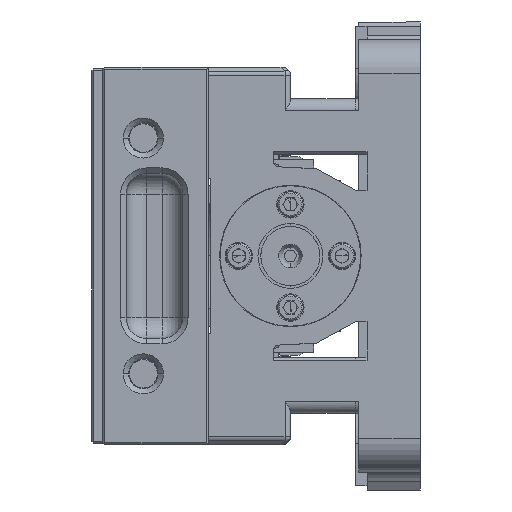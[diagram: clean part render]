
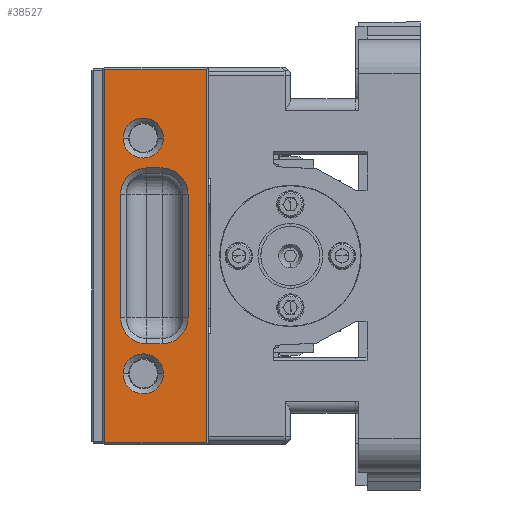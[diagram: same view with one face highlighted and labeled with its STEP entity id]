
A CAD part, left-side view. The second image highlights one B-rep face of the part: STEP entity #38527.
In plain terms, the highlighted planar face has unit normal (-1, 0, 0).
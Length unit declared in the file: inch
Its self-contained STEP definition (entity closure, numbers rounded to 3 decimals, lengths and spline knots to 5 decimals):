
#28 = EDGE_CURVE ( 'NONE', #48520, #14351, #49622, .T. ) ;
#295 = DIRECTION ( 'NONE',  ( 0., 1., 0. ) ) ;
#437 = ORIENTED_EDGE ( 'NONE', *, *, #4782, .T. ) ;
#513 = CARTESIAN_POINT ( 'NONE',  ( -4.311, 2.26833, -1.98 ) ) ;
#1097 = ORIENTED_EDGE ( 'NONE', *, *, #39977, .F. ) ;
#2566 = CARTESIAN_POINT ( 'NONE',  ( -4.311, 2.48083, -0.875 ) ) ;
#2964 = CIRCLE ( 'NONE', #50041, 0.2125 ) ;
#3204 = CARTESIAN_POINT ( 'NONE',  ( -4.311, 2.95533, 1.25 ) ) ;
#3383 = VERTEX_POINT ( 'NONE', #13771 ) ;
#3492 = LINE ( 'NONE', #35533, #26046 ) ;
#3831 = VERTEX_POINT ( 'NONE', #39617 ) ;
#4096 = VERTEX_POINT ( 'NONE', #20613 ) ;
#4734 = DIRECTION ( 'NONE',  ( 0., -1., 0. ) ) ;
#4782 = EDGE_CURVE ( 'NONE', #21865, #7699, #49904, .T. ) ;
#5322 = DIRECTION ( 'NONE',  ( -1., 0., 0. ) ) ;
#5771 = CARTESIAN_POINT ( 'NONE',  ( -4.311, 2.91958, -0.65625 ) ) ;
#5975 = ORIENTED_EDGE ( 'NONE', *, *, #28, .F. ) ;
#6728 = DIRECTION ( 'NONE',  ( 0., 1., 0. ) ) ;
#7306 = ORIENTED_EDGE ( 'NONE', *, *, #24887, .F. ) ;
#7683 = DIRECTION ( 'NONE',  ( 0., -1., 0. ) ) ;
#7699 = VERTEX_POINT ( 'NONE', #50136 ) ;
#7828 = EDGE_LOOP ( 'NONE', ( #38958, #5975, #31485, #1097, #34947, #15533, #7306, #42498 ) ) ;
#7983 = AXIS2_PLACEMENT_3D ( 'NONE', #5771, #52350, #39988 ) ;
#8034 = CARTESIAN_POINT ( 'NONE',  ( -4.311, 3.16783, -1.25 ) ) ;
#8052 = CIRCLE ( 'NONE', #52407, 0.27625 ) ;
#9721 = DIRECTION ( 'NONE',  ( -1., 0., 0. ) ) ;
#10131 = ORIENTED_EDGE ( 'NONE', *, *, #41833, .T. ) ;
#10397 = CIRCLE ( 'NONE', #52155, 0.2125 ) ;
#10661 = FACE_BOUND ( 'NONE', #7828, .T. ) ;
#12520 = CARTESIAN_POINT ( 'NONE',  ( -4.311, 2.95533, 1.25 ) ) ;
#12773 = CIRCLE ( 'NONE', #28472, 0.27625 ) ;
#13762 = LINE ( 'NONE', #20888, #15747 ) ;
#13771 = CARTESIAN_POINT ( 'NONE',  ( -4.311, 2.48083, 0.65625 ) ) ;
#13808 = ORIENTED_EDGE ( 'NONE', *, *, #20687, .F. ) ;
#14351 = VERTEX_POINT ( 'NONE', #18343 ) ;
#14857 = LINE ( 'NONE', #45247, #24794 ) ;
#15280 = FACE_BOUND ( 'NONE', #53118, .T. ) ;
#15436 = CARTESIAN_POINT ( 'NONE',  ( -4.311, 3.19583, 0.65625 ) ) ;
#15533 = ORIENTED_EDGE ( 'NONE', *, *, #27282, .F. ) ;
#15549 = DIRECTION ( 'NONE',  ( 0., 1., 0. ) ) ;
#15650 = EDGE_CURVE ( 'NONE', #3383, #34357, #12773, .T. ) ;
#15747 = VECTOR ( 'NONE', #37722, 39.37008 ) ;
#16382 = CARTESIAN_POINT ( 'NONE',  ( -4.311, 3.36333, -1.98 ) ) ;
#16486 = VECTOR ( 'NONE', #4734, 39.37008 ) ;
#16650 = CARTESIAN_POINT ( 'NONE',  ( -4.311, 2.91958, -0.9325 ) ) ;
#16859 = CARTESIAN_POINT ( 'NONE',  ( -4.311, 2.75708, 0.65625 ) ) ;
#18343 = CARTESIAN_POINT ( 'NONE',  ( -4.311, 3.19583, -0.65625 ) ) ;
#19222 = AXIS2_PLACEMENT_3D ( 'NONE', #12520, #29373, #46921 ) ;
#19539 = VERTEX_POINT ( 'NONE', #45627 ) ;
#19666 = VERTEX_POINT ( 'NONE', #42288 ) ;
#20413 = CIRCLE ( 'NONE', #23641, 0.2125 ) ;
#20613 = CARTESIAN_POINT ( 'NONE',  ( -4.311, 3.16783, 1.25 ) ) ;
#20687 = EDGE_CURVE ( 'NONE', #30663, #43681, #2964, .T. ) ;
#20888 = CARTESIAN_POINT ( 'NONE',  ( -4.311, 2.53833, 0.9325 ) ) ;
#21293 = DIRECTION ( 'NONE',  ( 0., 1., 0. ) ) ;
#21865 = VERTEX_POINT ( 'NONE', #29422 ) ;
#22172 = DIRECTION ( 'NONE',  ( 0., 0., 1. ) ) ;
#22918 = EDGE_LOOP ( 'NONE', ( #10131, #39925, #437, #54622 ) ) ;
#23053 = AXIS2_PLACEMENT_3D ( 'NONE', #26261, #5322, #48039 ) ;
#23438 = DIRECTION ( 'NONE',  ( -1., 0., 0. ) ) ;
#23641 = AXIS2_PLACEMENT_3D ( 'NONE', #3204, #49268, #40599 ) ;
#24794 = VECTOR ( 'NONE', #7683, 39.37008 ) ;
#24841 = AXIS2_PLACEMENT_3D ( 'NONE', #48203, #9721, #26587 ) ;
#24887 = EDGE_CURVE ( 'NONE', #19666, #31032, #44085, .T. ) ;
#25203 = DIRECTION ( 'NONE',  ( -1., 0., 0. ) ) ;
#25632 = CIRCLE ( 'NONE', #7983, 0.27625 ) ;
#26046 = VECTOR ( 'NONE', #44200, 39.37008 ) ;
#26261 = CARTESIAN_POINT ( 'NONE',  ( -4.311, 3.38333, 2.06 ) ) ;
#26527 = FACE_BOUND ( 'NONE', #35109, .T. ) ;
#26579 = CARTESIAN_POINT ( 'NONE',  ( -4.311, 2.95533, -1.25 ) ) ;
#26587 = DIRECTION ( 'NONE',  ( 0., 1., 0. ) ) ;
#27282 = EDGE_CURVE ( 'NONE', #31032, #3383, #51740, .T. ) ;
#27833 = FACE_OUTER_BOUND ( 'NONE', #22918, .T. ) ;
#27980 = EDGE_CURVE ( 'NONE', #34394, #4096, #20413, .T. ) ;
#28472 = AXIS2_PLACEMENT_3D ( 'NONE', #16859, #25203, #21293 ) ;
#28866 = VECTOR ( 'NONE', #22172, 39.37008 ) ;
#29202 = CARTESIAN_POINT ( 'NONE',  ( -4.311, 2.74283, -1.25 ) ) ;
#29373 = DIRECTION ( 'NONE',  ( -1., 0., 0. ) ) ;
#29422 = CARTESIAN_POINT ( 'NONE',  ( -4.311, 2.28833, 1.98 ) ) ;
#30663 = VERTEX_POINT ( 'NONE', #8034 ) ;
#30688 = PLANE ( 'NONE',  #23053 ) ;
#31032 = VERTEX_POINT ( 'NONE', #36647 ) ;
#31485 = ORIENTED_EDGE ( 'NONE', *, *, #38112, .F. ) ;
#31650 = EDGE_CURVE ( 'NONE', #39952, #19666, #14857, .T. ) ;
#31725 = CARTESIAN_POINT ( 'NONE',  ( -4.311, 2.91958, 0.65625 ) ) ;
#34357 = VERTEX_POINT ( 'NONE', #34840 ) ;
#34394 = VERTEX_POINT ( 'NONE', #39068 ) ;
#34840 = CARTESIAN_POINT ( 'NONE',  ( -4.311, 2.75708, 0.9325 ) ) ;
#34912 = ORIENTED_EDGE ( 'NONE', *, *, #27980, .F. ) ;
#34947 = ORIENTED_EDGE ( 'NONE', *, *, #15650, .F. ) ;
#35011 = EDGE_CURVE ( 'NONE', #43681, #30663, #10397, .T. ) ;
#35109 = EDGE_LOOP ( 'NONE', ( #13808, #44199 ) ) ;
#35533 = CARTESIAN_POINT ( 'NONE',  ( -4.311, 3.36333, 2.06 ) ) ;
#36616 = CARTESIAN_POINT ( 'NONE',  ( -4.311, 3.38333, 1.98 ) ) ;
#36647 = CARTESIAN_POINT ( 'NONE',  ( -4.311, 2.48083, -0.65625 ) ) ;
#36825 = EDGE_CURVE ( 'NONE', #14351, #39952, #25632, .T. ) ;
#37262 = EDGE_CURVE ( 'NONE', #3831, #21865, #50613, .T. ) ;
#37679 = VECTOR ( 'NONE', #40636, 39.37008 ) ;
#37722 = DIRECTION ( 'NONE',  ( 0., 1., 0. ) ) ;
#38112 = EDGE_CURVE ( 'NONE', #19539, #48520, #8052, .T. ) ;
#38527 = ADVANCED_FACE ( 'NONE', ( #27833, #26527, #15280, #10661 ), #30688, .T. ) ;
#38958 = ORIENTED_EDGE ( 'NONE', *, *, #36825, .F. ) ;
#38959 = LINE ( 'NONE', #513, #16486 ) ;
#39068 = CARTESIAN_POINT ( 'NONE',  ( -4.311, 2.74283, 1.25 ) ) ;
#39617 = CARTESIAN_POINT ( 'NONE',  ( -4.311, 2.28833, -1.98 ) ) ;
#39882 = DIRECTION ( 'NONE',  ( 0., 1., 0. ) ) ;
#39925 = ORIENTED_EDGE ( 'NONE', *, *, #37262, .T. ) ;
#39952 = VERTEX_POINT ( 'NONE', #16650 ) ;
#39977 = EDGE_CURVE ( 'NONE', #34357, #19539, #13762, .T. ) ;
#39988 = DIRECTION ( 'NONE',  ( 0., 1., 0. ) ) ;
#40234 = DIRECTION ( 'NONE',  ( -1., 0., 0. ) ) ;
#40599 = DIRECTION ( 'NONE',  ( 0., 1., 0. ) ) ;
#40636 = DIRECTION ( 'NONE',  ( 0., 0., -1. ) ) ;
#41266 = EDGE_CURVE ( 'NONE', #7699, #47946, #3492, .T. ) ;
#41833 = EDGE_CURVE ( 'NONE', #47946, #3831, #38959, .T. ) ;
#42288 = CARTESIAN_POINT ( 'NONE',  ( -4.311, 2.75708, -0.9325 ) ) ;
#42489 = CARTESIAN_POINT ( 'NONE',  ( -4.311, 2.95533, -1.25 ) ) ;
#42498 = ORIENTED_EDGE ( 'NONE', *, *, #31650, .F. ) ;
#43681 = VERTEX_POINT ( 'NONE', #29202 ) ;
#44085 = CIRCLE ( 'NONE', #24841, 0.27625 ) ;
#44199 = ORIENTED_EDGE ( 'NONE', *, *, #35011, .F. ) ;
#44200 = DIRECTION ( 'NONE',  ( 0., 0., -1. ) ) ;
#44695 = EDGE_CURVE ( 'NONE', #4096, #34394, #50060, .T. ) ;
#45247 = CARTESIAN_POINT ( 'NONE',  ( -4.311, 2.53833, -0.9325 ) ) ;
#45627 = CARTESIAN_POINT ( 'NONE',  ( -4.311, 2.91958, 0.9325 ) ) ;
#46535 = ORIENTED_EDGE ( 'NONE', *, *, #44695, .F. ) ;
#46921 = DIRECTION ( 'NONE',  ( 0., 1., 0. ) ) ;
#47867 = CARTESIAN_POINT ( 'NONE',  ( -4.311, 2.28833, 2.06 ) ) ;
#47946 = VERTEX_POINT ( 'NONE', #16382 ) ;
#48039 = DIRECTION ( 'NONE',  ( 0., 1., 0. ) ) ;
#48203 = CARTESIAN_POINT ( 'NONE',  ( -4.311, 2.75708, -0.65625 ) ) ;
#48222 = CARTESIAN_POINT ( 'NONE',  ( -4.311, 3.19583, -0.875 ) ) ;
#48421 = VECTOR ( 'NONE', #53222, 39.37008 ) ;
#48520 = VERTEX_POINT ( 'NONE', #15436 ) ;
#48610 = VECTOR ( 'NONE', #15549, 39.37008 ) ;
#49268 = DIRECTION ( 'NONE',  ( -1., 0., 0. ) ) ;
#49622 = LINE ( 'NONE', #48222, #37679 ) ;
#49904 = LINE ( 'NONE', #36616, #48610 ) ;
#50041 = AXIS2_PLACEMENT_3D ( 'NONE', #26579, #23438, #39882 ) ;
#50060 = CIRCLE ( 'NONE', #19222, 0.2125 ) ;
#50136 = CARTESIAN_POINT ( 'NONE',  ( -4.311, 3.36333, 1.98 ) ) ;
#50613 = LINE ( 'NONE', #47867, #28866 ) ;
#50927 = DIRECTION ( 'NONE',  ( -1., 0., 0. ) ) ;
#51740 = LINE ( 'NONE', #2566, #48421 ) ;
#52155 = AXIS2_PLACEMENT_3D ( 'NONE', #42489, #50927, #295 ) ;
#52350 = DIRECTION ( 'NONE',  ( -1., 0., 0. ) ) ;
#52407 = AXIS2_PLACEMENT_3D ( 'NONE', #31725, #40234, #6728 ) ;
#53118 = EDGE_LOOP ( 'NONE', ( #46535, #34912 ) ) ;
#53222 = DIRECTION ( 'NONE',  ( 0., 0., 1. ) ) ;
#54622 = ORIENTED_EDGE ( 'NONE', *, *, #41266, .T. ) ;
